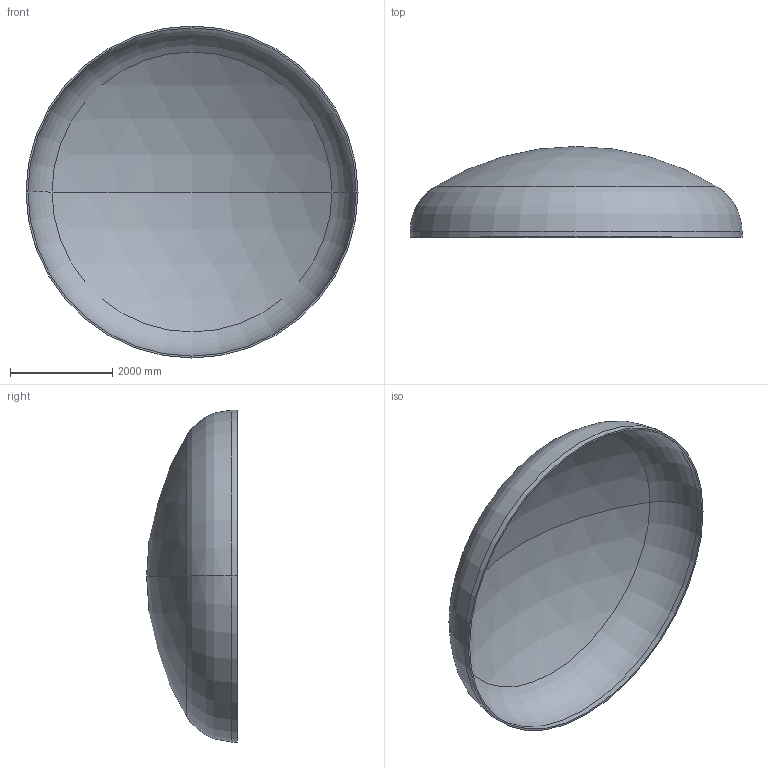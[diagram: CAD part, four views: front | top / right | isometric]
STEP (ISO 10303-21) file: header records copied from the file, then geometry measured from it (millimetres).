
FILE_DESCRIPTION (( 'STEP AP203' ), '1' );
FILE_NAME ('DIN 28013 Korbbogenform_-_Boden DIN 28013 - 6500 x 110 - I - s=36.step', '2016-07-04T10:41:31', ( '' ), ( '' ), 'SwSTEP 2.0', 'SolidWorks 2013', '' );
FILE_SCHEMA (( 'CONFIG_CONTROL_DESIGN' ));
Length unit declared in the file: millimetre
Products named in the file (1): DIN 28013 Korbbogenform_-_Boden DIN 28013 - 6500 x 110 - I - s=36
Bounding box: 6500 x 1776.94 x 6500 mm (x, y, z)
Volume: 1722563436.7 mm3; surface area: 96431706.6 mm2
Topology: 1 solids, 1 shells, 13 faces, 24 edges, 14 vertices
Faces by surface type: torus 4, cylinder 4, sphere 4, plane 1
Entity records: 407 total; most frequent: DIRECTION 72, CARTESIAN_POINT 52, ORIENTED_EDGE 48, AXIS2_PLACEMENT_3D 34, EDGE_CURVE 24, CIRCLE 20, VERTEX_POINT 14, EDGE_LOOP 14
